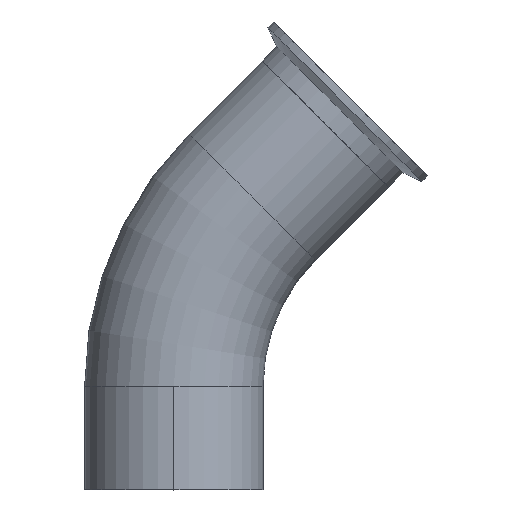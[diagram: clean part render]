
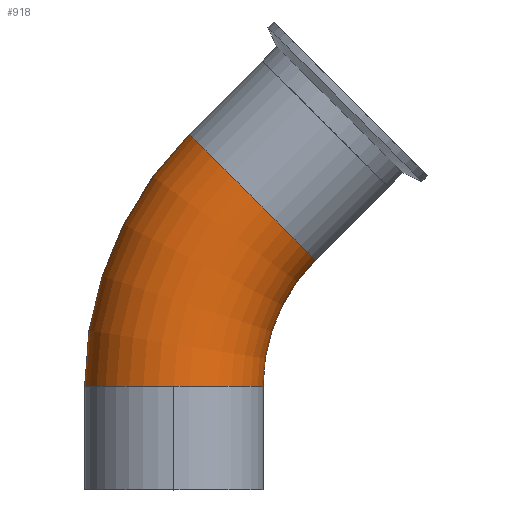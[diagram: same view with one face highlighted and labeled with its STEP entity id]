
A CAD part, top view. The second image highlights one B-rep face of the part: STEP entity #918.
In plain terms, the highlighted toroidal (fillet/blend) face has major radius 95.25 mm and minor radius 31.75 mm.
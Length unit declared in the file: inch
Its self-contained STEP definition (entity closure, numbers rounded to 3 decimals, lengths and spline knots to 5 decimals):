
#12 = ORIENTED_EDGE ( 'NONE', *, *, #417, .T. ) ;
#25 = CARTESIAN_POINT ( 'NONE',  ( 1.52754, 3.06009, 5.36054 ) ) ;
#26 = DIRECTION ( 'NONE',  ( 0., 0., 1. ) ) ;
#28 = CARTESIAN_POINT ( 'NONE',  ( 2.77754, 3.06009, 6.61054 ) ) ;
#40 = DIRECTION ( 'NONE',  ( 0.707, 0.707, 0. ) ) ;
#55 = CARTESIAN_POINT ( 'NONE',  ( 6.52754, 3.06009, 5.36054 ) ) ;
#58 = AXIS2_PLACEMENT_3D ( 'NONE', #492, #40, #561 ) ;
#69 = DIRECTION ( 'NONE',  ( 0., 0., 1. ) ) ;
#79 = AXIS2_PLACEMENT_3D ( 'NONE', #776, #339, #840 ) ;
#94 = AXIS2_PLACEMENT_3D ( 'NONE', #280, #788, #345 ) ;
#129 = AXIS2_PLACEMENT_3D ( 'NONE', #514, #69, #592 ) ;
#166 = ORIENTED_EDGE ( 'NONE', *, *, #383, .F. ) ;
#177 = VERTEX_POINT ( 'NONE', #305 ) ;
#193 = ORIENTED_EDGE ( 'NONE', *, *, #455, .F. ) ;
#212 = EDGE_CURVE ( 'NONE', #878, #551, #804, .T. ) ;
#224 = EDGE_LOOP ( 'NONE', ( #193, #584, #452, #12, #166 ) ) ;
#246 = AXIS2_PLACEMENT_3D ( 'NONE', #55, #720, #890 ) ;
#280 = CARTESIAN_POINT ( 'NONE',  ( 2.77754, 3.06009, 5.36054 ) ) ;
#305 = CARTESIAN_POINT ( 'NONE',  ( 4.02754, 3.06009, 5.36054 ) ) ;
#339 = DIRECTION ( 'NONE',  ( 0., 1., 0. ) ) ;
#345 = DIRECTION ( 'NONE',  ( -1., 0., 0. ) ) ;
#374 = CIRCLE ( 'NONE', #58, 1.25 ) ;
#383 = EDGE_CURVE ( 'NONE', #935, #177, #739, .T. ) ;
#417 = EDGE_CURVE ( 'NONE', #567, #177, #916, .T. ) ;
#439 = EDGE_CURVE ( 'NONE', #551, #567, #603, .T. ) ;
#447 = FACE_OUTER_BOUND ( 'NONE', #224, .T. ) ;
#452 = ORIENTED_EDGE ( 'NONE', *, *, #439, .T. ) ;
#455 = EDGE_CURVE ( 'NONE', #878, #935, #374, .T. ) ;
#492 = CARTESIAN_POINT ( 'NONE',  ( 3.87589, 5.71174, 5.36054 ) ) ;
#514 = CARTESIAN_POINT ( 'NONE',  ( 6.52754, 3.06009, 5.36054 ) ) ;
#545 = CARTESIAN_POINT ( 'NONE',  ( 2.99201, 6.59563, 5.36054 ) ) ;
#551 = VERTEX_POINT ( 'NONE', #25 ) ;
#561 = DIRECTION ( 'NONE',  ( -0.707, 0.707, 0. ) ) ;
#566 = CARTESIAN_POINT ( 'NONE',  ( 4.75978, 4.82786, 5.36054 ) ) ;
#567 = VERTEX_POINT ( 'NONE', #28 ) ;
#584 = ORIENTED_EDGE ( 'NONE', *, *, #212, .T. ) ;
#592 = DIRECTION ( 'NONE',  ( 1., 0., 0. ) ) ;
#603 = CIRCLE ( 'NONE', #79, 1.25 ) ;
#623 = CARTESIAN_POINT ( 'NONE',  ( 6.52754, 3.06009, 5.36054 ) ) ;
#644 = TOROIDAL_SURFACE ( 'NONE', #794, 3.75, 1.25 ) ;
#690 = DIRECTION ( 'NONE',  ( 1., 0., 0. ) ) ;
#720 = DIRECTION ( 'NONE',  ( 0., 0., 1. ) ) ;
#739 = CIRCLE ( 'NONE', #129, 2.5 ) ;
#776 = CARTESIAN_POINT ( 'NONE',  ( 2.77754, 3.06009, 5.36054 ) ) ;
#788 = DIRECTION ( 'NONE',  ( 0., 1., 0. ) ) ;
#794 = AXIS2_PLACEMENT_3D ( 'NONE', #623, #26, #690 ) ;
#804 = CIRCLE ( 'NONE', #246, 5. ) ;
#840 = DIRECTION ( 'NONE',  ( -1., 0., 0. ) ) ;
#878 = VERTEX_POINT ( 'NONE', #545 ) ;
#890 = DIRECTION ( 'NONE',  ( 1., 0., 0. ) ) ;
#916 = CIRCLE ( 'NONE', #94, 1.25 ) ;
#918 = ADVANCED_FACE ( 'NONE', ( #447 ), #644, .T. ) ;
#935 = VERTEX_POINT ( 'NONE', #566 ) ;
